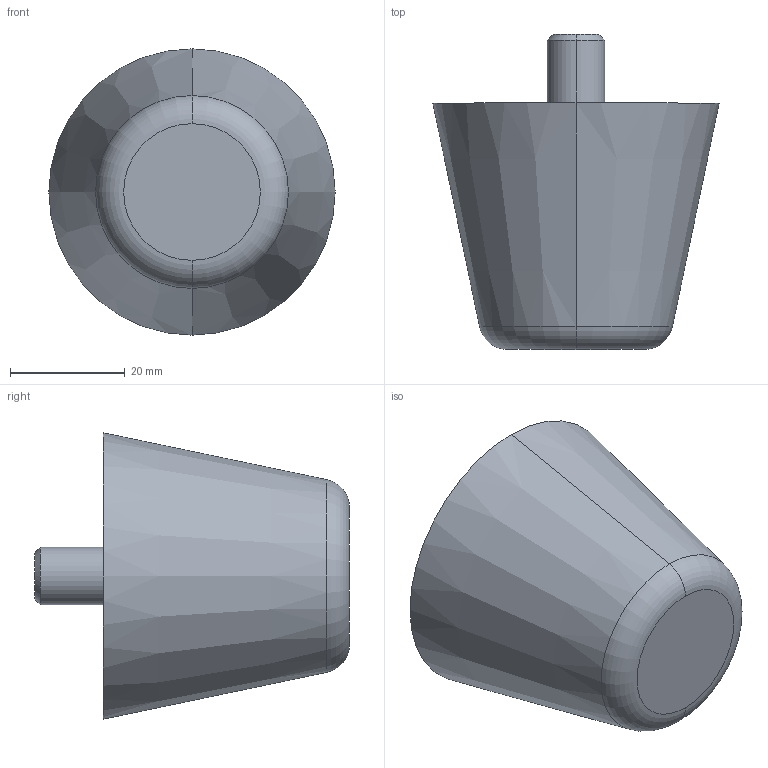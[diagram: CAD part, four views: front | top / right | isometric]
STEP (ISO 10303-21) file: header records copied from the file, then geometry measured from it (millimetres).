
FILE_DESCRIPTION (( 'STEP AP214' ), '1' );
FILE_NAME ('253-50-M10-12-40.step', '2023-03-24T07:38:36', ( '' ), ( '' ), 'SwSTEP 2.0', 'SolidWorks 2022', '' );
FILE_SCHEMA (( 'AUTOMOTIVE_DESIGN' ));
Length unit declared in the file: millimetre
Products named in the file (1): 253-50-M10-12-40
Bounding box: 50 x 54.99 x 50 mm (x, y, z)
Volume: 58282 mm3; surface area: 8646 mm2
Topology: 1 solids, 1 shells, 14 faces, 26 edges, 16 vertices
Faces by surface type: cone 6, plane 4, cylinder 2, torus 2
Entity records: 500 total; most frequent: DIRECTION 74, CARTESIAN_POINT 57, ORIENTED_EDGE 52, AXIS2_PLACEMENT_3D 33, EDGE_CURVE 26, CIRCLE 18, EDGE_LOOP 16, VERTEX_POINT 16
